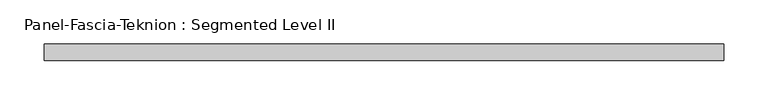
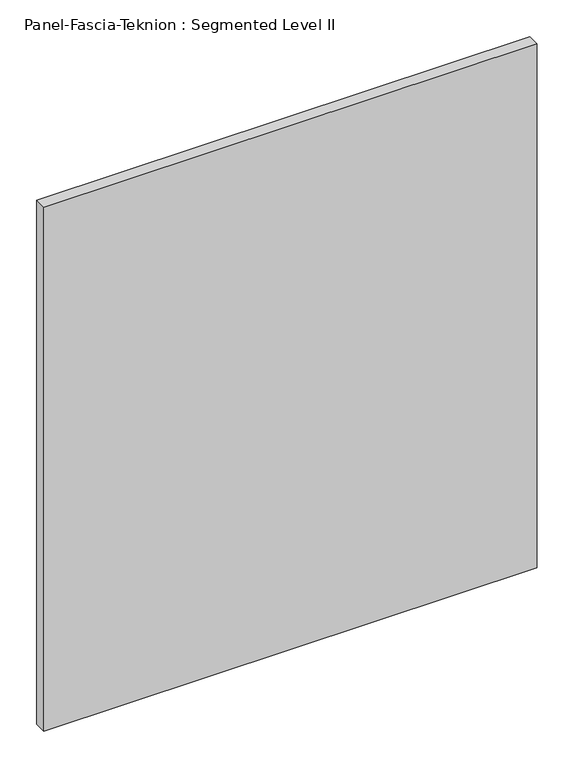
"""IFC4 building model written with IfcOpenShell, lengths in millimetres: proxy geometry, Panel-Fascia-Teknion : Segmented Level II."""

from ifc_helpers import new_model, si_unit, frame, origin, place, context, project, spatial, polyline, outline, extrude, source, transform, mapped, element, save


def panel_fascia_teknion_segmented_level_ii_5e5265e3(model_context):
    return source(origin(), model_context, "Body", "SweptSolid", [
        extrude(outline(polyline([(385.4152344, -9.525), (-385.4152344, -9.525), (-385.4152344, 9.525), (385.4152344, 9.525), (385.4152344, -9.525)])), frame((0.0, 0.0, 3.175), z_axis=(0.0, 0.0, 1.0), x_axis=(1.0, 0.0, 0.0)), (0.0, 0.0, 1.0), 865.632),
    ])


if __name__ == "__main__":
    model = new_model("IFC4")
    model_context = context("Model", 3, world=origin())
    ifc_project = project(units=[si_unit("LENGTHUNIT", "METRE", prefix="MILLI")], contexts=[model_context])
    site = spatial("IfcSite", under=ifc_project)
    building = spatial("IfcBuilding", under=site)
    placement = place(None, origin())
    panel_fascia_teknion_segmented_level_ii_shape = panel_fascia_teknion_segmented_level_ii_5e5265e3(model_context)
    element("IfcBuildingElementProxy", 1, Name="Panel-Fascia-Teknion : Segmented Level II", ObjectType="Panel-Fascia-Teknion : Segmented Level II", at=placement, inside=building, context=model_context, shape_type="MappedRepresentation", body=[
        mapped(panel_fascia_teknion_segmented_level_ii_shape, transform((0.0, 0.0, 0.0), x_axis=(1.0, 0.0, 0.0), y_axis=(0.0, 1.0, 0.0), z_axis=(0.0, 0.0, 1.0))),
    ])
    save(model, "model.ifc")
